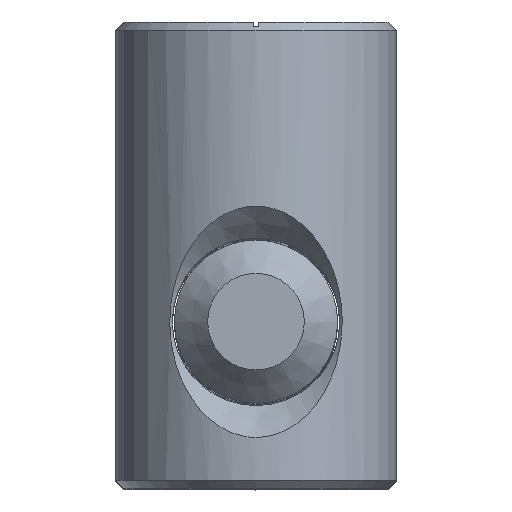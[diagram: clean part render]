
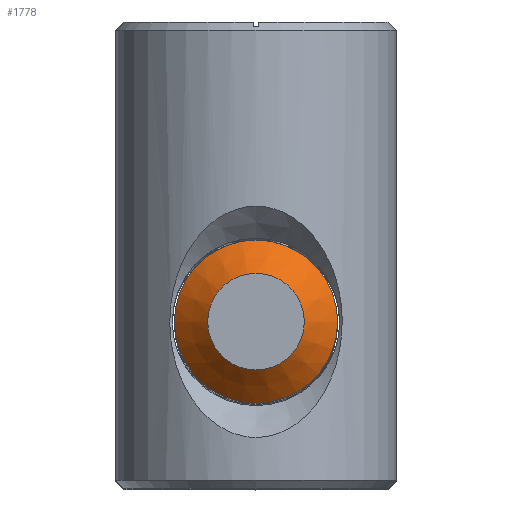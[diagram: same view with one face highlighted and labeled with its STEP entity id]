
A CAD part, top view. The second image highlights one B-rep face of the part: STEP entity #1778.
In plain terms, the highlighted conical face has half-angle 45 degrees and reference radius 2.9 mm.
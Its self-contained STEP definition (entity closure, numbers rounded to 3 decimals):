
#194 = CARTESIAN_POINT ( 'NONE',  ( 0., 0., 52. ) ) ;
#241 = CARTESIAN_POINT ( 'NONE',  ( 0., 0., 50. ) ) ;
#246 = DIRECTION ( 'NONE',  ( 0., 0., -1. ) ) ;
#365 = AXIS2_PLACEMENT_3D ( 'NONE', #574, #246, #2844 ) ;
#419 = EDGE_LOOP ( 'NONE', ( #3253 ) ) ;
#526 = DIRECTION ( 'NONE',  ( -1., 0., 0. ) ) ;
#569 = DIRECTION ( 'NONE',  ( -1., 0., 0. ) ) ;
#574 = CARTESIAN_POINT ( 'NONE',  ( 0., 0., 52. ) ) ;
#600 = VERTEX_POINT ( 'NONE', #1517 ) ;
#810 = AXIS2_PLACEMENT_3D ( 'NONE', #194, #2787, #526 ) ;
#818 = EDGE_CURVE ( 'NONE', #1318, #1318, #2563, .T. ) ;
#1318 = VERTEX_POINT ( 'NONE', #4200 ) ;
#1435 = CONICAL_SURFACE ( 'NONE', #365, 2.9, 0.785 ) ;
#1484 = AXIS2_PLACEMENT_3D ( 'NONE', #241, #2836, #569 ) ;
#1517 = CARTESIAN_POINT ( 'NONE',  ( -4.9, 0., 50. ) ) ;
#1604 = CIRCLE ( 'NONE', #1484, 4.9 ) ;
#1778 = ADVANCED_FACE ( 'NONE', ( #2325, #2313 ), #1435, .T. ) ;
#2313 = FACE_BOUND ( 'NONE', #4643, .T. ) ;
#2325 = FACE_OUTER_BOUND ( 'NONE', #419, .T. ) ;
#2563 = CIRCLE ( 'NONE', #810, 2.9 ) ;
#2787 = DIRECTION ( 'NONE',  ( 0., 0., 1. ) ) ;
#2836 = DIRECTION ( 'NONE',  ( 0., 0., -1. ) ) ;
#2844 = DIRECTION ( 'NONE',  ( -1., 0., 0. ) ) ;
#3253 = ORIENTED_EDGE ( 'NONE', *, *, #3818, .F. ) ;
#3818 = EDGE_CURVE ( 'NONE', #600, #600, #1604, .T. ) ;
#4200 = CARTESIAN_POINT ( 'NONE',  ( -2.9, 0., 52. ) ) ;
#4643 = EDGE_LOOP ( 'NONE', ( #4677 ) ) ;
#4677 = ORIENTED_EDGE ( 'NONE', *, *, #818, .F. ) ;
